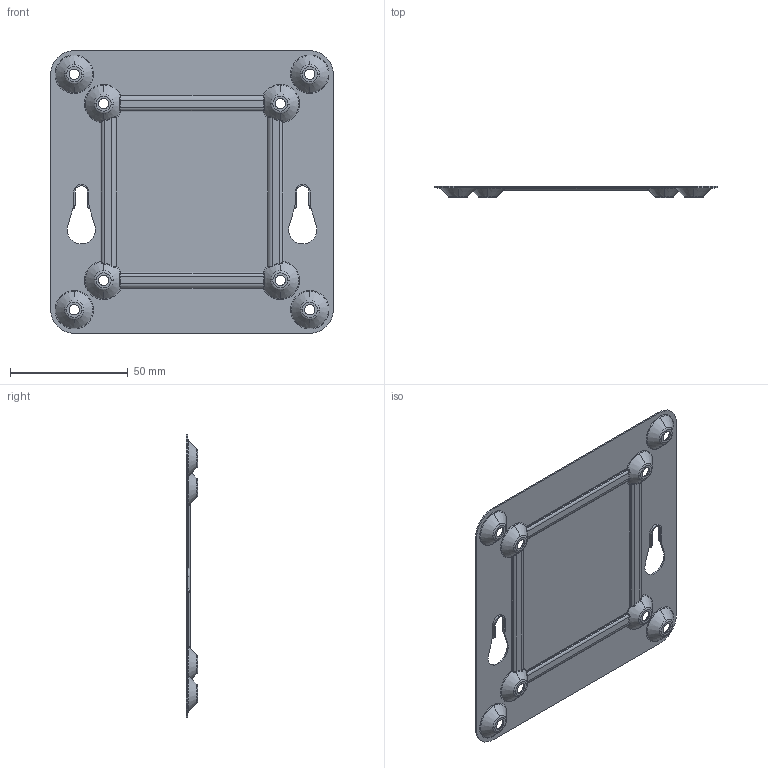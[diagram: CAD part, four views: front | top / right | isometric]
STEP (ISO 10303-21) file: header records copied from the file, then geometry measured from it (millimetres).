
FILE_DESCRIPTION (( 'STEP AP203' ), '1' );
FILE_NAME ('NUC_HN_VESA Plate.STEP', '2018-04-20T14:54:37', ( 'Intel User' ), ( 'Intel Corporation' ), 'SwSTEP 2.0', 'SolidWorks 2017', '' );
FILE_SCHEMA (( 'CONFIG_CONTROL_DESIGN' ));
Length unit declared in the file: inch
Products named in the file (1): NUC_HN_VESA Plate
Bounding box: 120 x 4.8 x 120 mm (x, y, z)
Volume: 8673.4 mm3; surface area: 29329.7 mm2
Topology: 1 solids, 1 shells, 360 faces, 868 edges, 520 vertices
Faces by surface type: torus 92, cylinder 74, plane 66, bspline 64, cone 32, sphere 32
Entity records: 13410 total; most frequent: CARTESIAN_POINT 5156, DIRECTION 1766, ORIENTED_EDGE 1736, EDGE_CURVE 868, AXIS2_PLACEMENT_3D 785, VERTEX_POINT 520, CIRCLE 488, EDGE_LOOP 390
